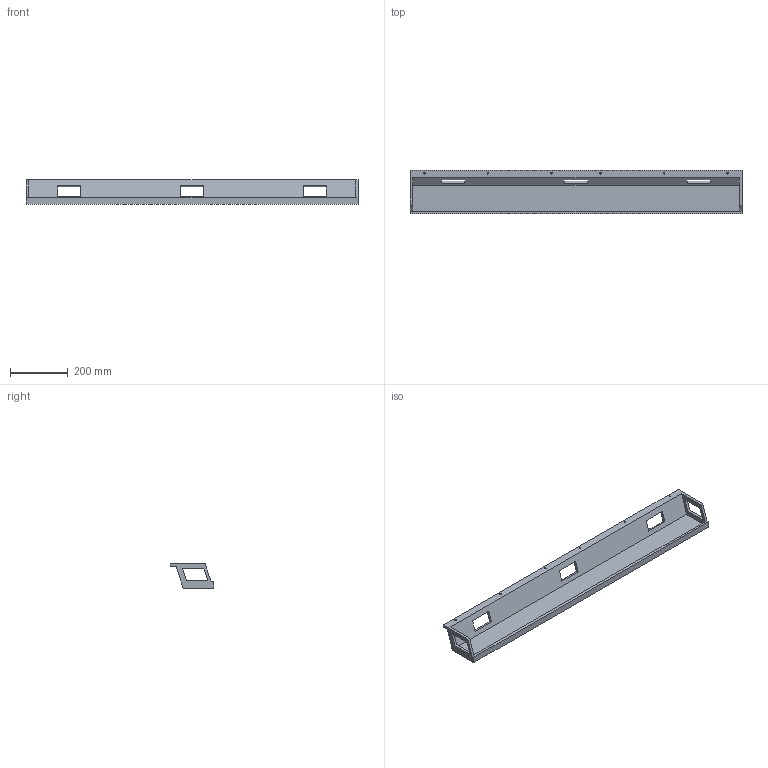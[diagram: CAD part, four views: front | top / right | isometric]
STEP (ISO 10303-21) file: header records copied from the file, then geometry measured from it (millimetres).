
FILE_DESCRIPTION( ( 'STEP AP214' ), '1' );
FILE_NAME( 'C:/Users/KOSH/Desktop/New folder/2021/Actiforce/Export/9309811.stp', '2021-12-03T09:52:36', ( '' ), ( '' ), ' ', 'PARTsolutions', ' ' );
FILE_SCHEMA( ( 'AUTOMOTIVE_DESIGN { 1 0 10303 214 1 1 1 1 }' ) );
Length unit declared in the file: millimetre
Products named in the file (1): _9309811
Bounding box: 1150 x 150 x 85 mm (x, y, z)
Volume: 2251374.2 mm3; surface area: 536186.9 mm2
Topology: 1 solids, 1 shells, 42 faces, 118 edges, 78 vertices
Faces by surface type: plane 36, cylinder 6
Full cylindrical faces by diameter (mm): 5.5 x6
Entity records: 1704 total; most frequent: CARTESIAN_POINT 233, ORIENTED_EDGE 224, DIRECTION 210, EDGE_CURVE 112, LINE 100, VECTOR 100, VERTEX_POINT 78, EDGE_LOOP 70
